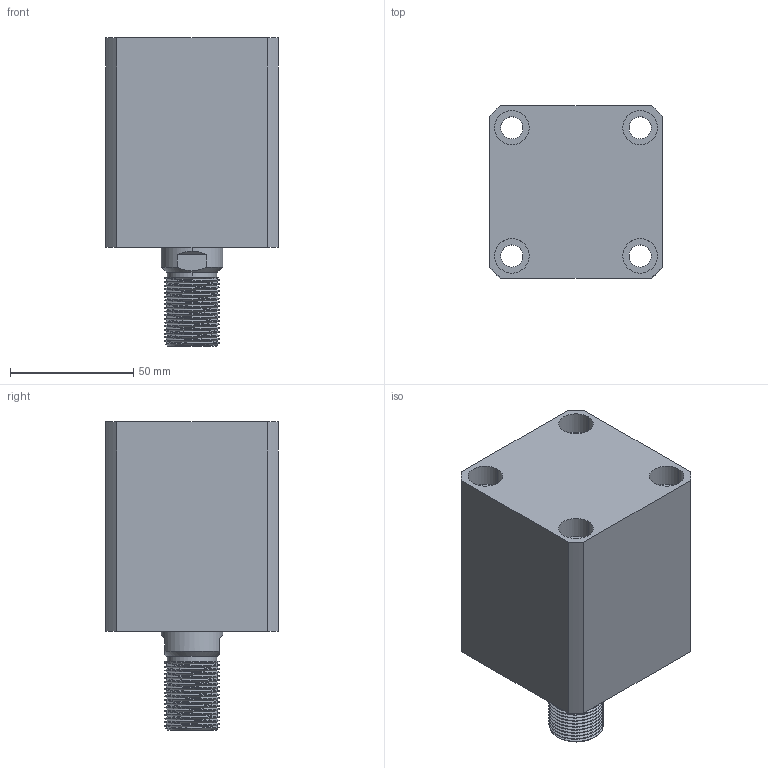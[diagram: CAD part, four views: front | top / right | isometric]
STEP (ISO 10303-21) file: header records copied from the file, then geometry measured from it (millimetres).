
FILE_DESCRIPTION (( 'STEP AP214' ), '1' );
FILE_NAME ('chtb-sd40x30w_asm.STEP', '2018-06-08T06:23:07', ( 'Windows' ), ( 'Microsoft' ), 'SwSTEP 2.0', 'SolidWorks 2015', '' );
FILE_SCHEMA (( 'AUTOMOTIVE_DESIGN' ));
Length unit declared in the file: millimetre
Products named in the file (4): chtb-sd40x30w_asm; CHTB-SD40X30WHSG; CHTB-SD40X30NBT; CHTB-SD40QG
Assembly tree (3 placements, depth 2):
  chtb-sd40x30w_asm
    CHTB-SD40QG
    CHTB-SD40X30NBT
    CHTB-SD40X30WHSG
Bounding box: 70 x 70 x 125 mm (x, y, z)
Volume: 371426.8 mm3; surface area: 78866.1 mm2
Topology: 3 solids, 4 shells, 203 faces, 533 edges, 355 vertices
Faces by surface type: cylinder 118, plane 40, bspline 16, cone 15, torus 14
Entity records: 13425 total; most frequent: CARTESIAN_POINT 8554, ORIENTED_EDGE 1054, DIRECTION 914, EDGE_CURVE 527, AXIS2_PLACEMENT_3D 380, VERTEX_POINT 355, EDGE_LOOP 240, ADVANCED_FACE 203
